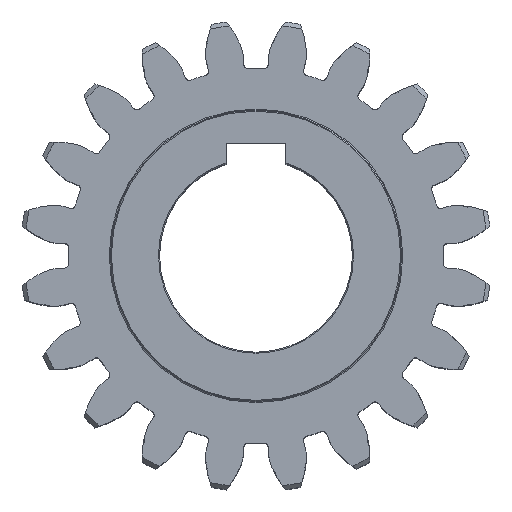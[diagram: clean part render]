
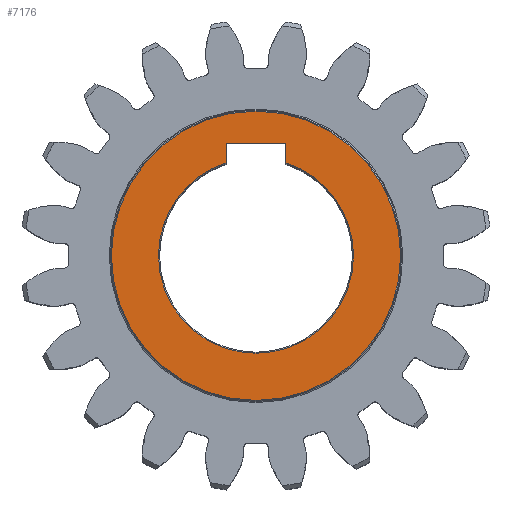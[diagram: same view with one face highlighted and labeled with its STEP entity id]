
A CAD part, top view. The second image highlights one B-rep face of the part: STEP entity #7176.
In plain terms, the highlighted planar face has unit normal (0, 0, 1).
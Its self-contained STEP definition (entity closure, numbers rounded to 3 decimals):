
#115 = EDGE_CURVE ( 'NONE', #12728, #12758, #11450, .T. ) ;
#233 = CARTESIAN_POINT ( 'NONE',  ( 33.75, 0., 30. ) ) ;
#244 = CARTESIAN_POINT ( 'NONE',  ( 7., 26.3, 30. ) ) ;
#538 = PLANE ( 'NONE',  #7825 ) ;
#1123 = DIRECTION ( 'NONE',  ( 1., 0., 0. ) ) ;
#1304 = DIRECTION ( 'NONE',  ( 0., 0., 1. ) ) ;
#1498 = VECTOR ( 'NONE', #6228, 1000. ) ;
#2391 = CARTESIAN_POINT ( 'NONE',  ( 0., 0., 30. ) ) ;
#2453 = EDGE_LOOP ( 'NONE', ( #3893, #7660, #2842, #8728, #3689, #2913 ) ) ;
#2470 = DIRECTION ( 'NONE',  ( 0., 0., 1. ) ) ;
#2612 = CARTESIAN_POINT ( 'NONE',  ( -33.75, 0., 30. ) ) ;
#2671 = DIRECTION ( 'NONE',  ( 1., 0., 0. ) ) ;
#2842 = ORIENTED_EDGE ( 'NONE', *, *, #3926, .T. ) ;
#2912 = VECTOR ( 'NONE', #9653, 1000. ) ;
#2913 = ORIENTED_EDGE ( 'NONE', *, *, #7495, .T. ) ;
#3231 = DIRECTION ( 'NONE',  ( 1., 0., 0. ) ) ;
#3689 = ORIENTED_EDGE ( 'NONE', *, *, #3848, .T. ) ;
#3701 = CARTESIAN_POINT ( 'NONE',  ( 0., 0., 30. ) ) ;
#3848 = EDGE_CURVE ( 'NONE', #8369, #5689, #4341, .T. ) ;
#3861 = VERTEX_POINT ( 'NONE', #4549 ) ;
#3893 = ORIENTED_EDGE ( 'NONE', *, *, #5972, .T. ) ;
#3926 = EDGE_CURVE ( 'NONE', #12758, #3861, #4240, .T. ) ;
#4119 = CIRCLE ( 'NONE', #9253, 22.75 ) ;
#4232 = ORIENTED_EDGE ( 'NONE', *, *, #9121, .T. ) ;
#4240 = CIRCLE ( 'NONE', #12044, 22.75 ) ;
#4341 = LINE ( 'NONE', #12973, #2912 ) ;
#4549 = CARTESIAN_POINT ( 'NONE',  ( -22.75, 0., 30. ) ) ;
#4822 = DIRECTION ( 'NONE',  ( 1., 0., 0. ) ) ;
#5398 = CARTESIAN_POINT ( 'NONE',  ( 0., 0., 30. ) ) ;
#5612 = CARTESIAN_POINT ( 'NONE',  ( 7., 21.646, 30. ) ) ;
#5689 = VERTEX_POINT ( 'NONE', #7150 ) ;
#5730 = DIRECTION ( 'NONE',  ( 1., 0., 0. ) ) ;
#5878 = DIRECTION ( 'NONE',  ( 0., 0., -1. ) ) ;
#5972 = EDGE_CURVE ( 'NONE', #8111, #12728, #12693, .T. ) ;
#6228 = DIRECTION ( 'NONE',  ( 1., 0., 0. ) ) ;
#6266 = DIRECTION ( 'NONE',  ( 0., 0., -1. ) ) ;
#6338 = CARTESIAN_POINT ( 'NONE',  ( 0., 0., 30. ) ) ;
#6771 = DIRECTION ( 'NONE',  ( 0., 0., 1. ) ) ;
#7150 = CARTESIAN_POINT ( 'NONE',  ( -7., 26.3, 30. ) ) ;
#7176 = ADVANCED_FACE ( 'NONE', ( #7766, #8811 ), #538, .T. ) ;
#7339 = DIRECTION ( 'NONE',  ( 0., -1., 0. ) ) ;
#7495 = EDGE_CURVE ( 'NONE', #5689, #8111, #13399, .T. ) ;
#7660 = ORIENTED_EDGE ( 'NONE', *, *, #115, .T. ) ;
#7697 = DIRECTION ( 'NONE',  ( 1., 0., 0. ) ) ;
#7766 = FACE_OUTER_BOUND ( 'NONE', #8861, .T. ) ;
#7825 = AXIS2_PLACEMENT_3D ( 'NONE', #10148, #2470, #2671 ) ;
#7962 = AXIS2_PLACEMENT_3D ( 'NONE', #5398, #1304, #7697 ) ;
#8086 = AXIS2_PLACEMENT_3D ( 'NONE', #3701, #5878, #4822 ) ;
#8111 = VERTEX_POINT ( 'NONE', #244 ) ;
#8369 = VERTEX_POINT ( 'NONE', #8429 ) ;
#8429 = CARTESIAN_POINT ( 'NONE',  ( -7., 21.646, 30. ) ) ;
#8476 = ORIENTED_EDGE ( 'NONE', *, *, #10407, .T. ) ;
#8666 = CIRCLE ( 'NONE', #10473, 33.75 ) ;
#8728 = ORIENTED_EDGE ( 'NONE', *, *, #11344, .T. ) ;
#8730 = CARTESIAN_POINT ( 'NONE',  ( 0., 0., 30. ) ) ;
#8811 = FACE_BOUND ( 'NONE', #2453, .T. ) ;
#8861 = EDGE_LOOP ( 'NONE', ( #4232, #8476 ) ) ;
#9121 = EDGE_CURVE ( 'NONE', #12804, #10683, #8666, .T. ) ;
#9253 = AXIS2_PLACEMENT_3D ( 'NONE', #6338, #6266, #1123 ) ;
#9449 = CARTESIAN_POINT ( 'NONE',  ( 7., 26.3, 30. ) ) ;
#9534 = CIRCLE ( 'NONE', #7962, 33.75 ) ;
#9653 = DIRECTION ( 'NONE',  ( 0., 1., 0. ) ) ;
#9949 = CARTESIAN_POINT ( 'NONE',  ( 22.75, 0., 30. ) ) ;
#10148 = CARTESIAN_POINT ( 'NONE',  ( 0., 0., 30. ) ) ;
#10407 = EDGE_CURVE ( 'NONE', #10683, #12804, #9534, .T. ) ;
#10473 = AXIS2_PLACEMENT_3D ( 'NONE', #2391, #6771, #5730 ) ;
#10683 = VERTEX_POINT ( 'NONE', #233 ) ;
#11000 = VECTOR ( 'NONE', #7339, 1000. ) ;
#11344 = EDGE_CURVE ( 'NONE', #3861, #8369, #4119, .T. ) ;
#11450 = CIRCLE ( 'NONE', #8086, 22.75 ) ;
#11952 = DIRECTION ( 'NONE',  ( 0., 0., -1. ) ) ;
#12044 = AXIS2_PLACEMENT_3D ( 'NONE', #8730, #11952, #3231 ) ;
#12632 = CARTESIAN_POINT ( 'NONE',  ( 7., 18.7, 30. ) ) ;
#12693 = LINE ( 'NONE', #12632, #11000 ) ;
#12728 = VERTEX_POINT ( 'NONE', #5612 ) ;
#12758 = VERTEX_POINT ( 'NONE', #9949 ) ;
#12804 = VERTEX_POINT ( 'NONE', #2612 ) ;
#12973 = CARTESIAN_POINT ( 'NONE',  ( -7., 18.7, 30. ) ) ;
#13399 = LINE ( 'NONE', #9449, #1498 ) ;
